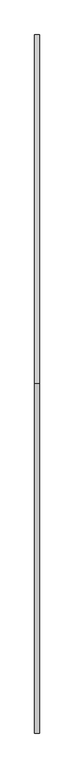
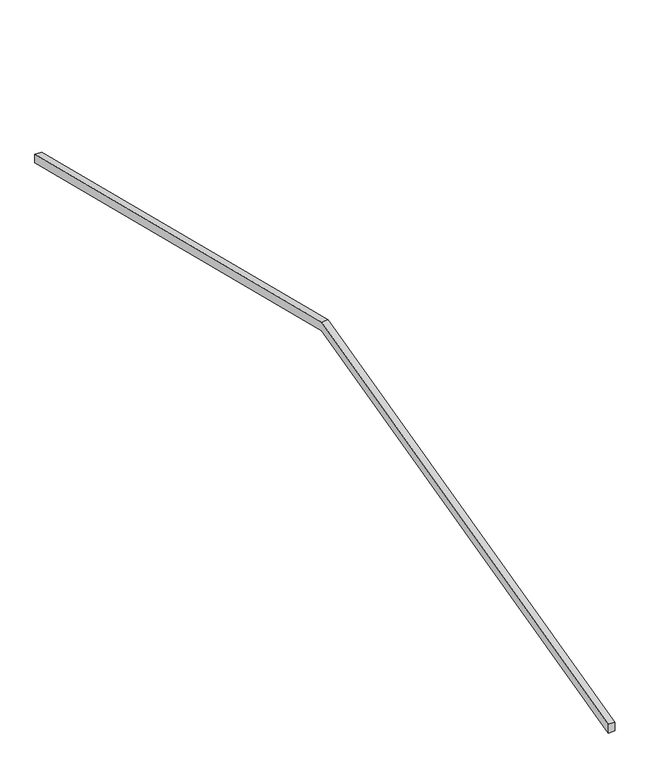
"""IFC4 building model written with IfcOpenShell, lengths in millimetres: proxy geometry."""

from ifc_helpers import new_model, si_unit, frame, origin, place, context, project, spatial, polyline, outline, extrude, source, transform, mapped, element, save


def generic_models_ccca3100(model_context):
    return source(origin(), model_context, "Body", "SweptSolid", [
        extrude(outline(polyline([(1948.6238165, 4392.1026725), (-2551.3761835, 3270.1266597), (-2551.3761835, 3352.5757501), (1948.6238165, 4474.5517629), (6448.6238165, 3352.5757501), (6448.6238165, 3270.1266597), (1948.6238165, 4392.1026725)])), frame((44800.9238822, 0.0, 0.0), z_axis=(1.0, 0.0, 0.0), x_axis=(0.0, 1.0, 0.0)), (0.0, 0.0, 1.0), 60.0),
    ])


if __name__ == "__main__":
    model = new_model("IFC4")
    model_context = context("Model", 3, world=origin())
    ifc_project = project(units=[si_unit("LENGTHUNIT", "METRE", prefix="MILLI")], contexts=[model_context])
    site = spatial("IfcSite", under=ifc_project)
    building = spatial("IfcBuilding", under=site)
    placement = place(None, origin())
    generic_models_shape = generic_models_ccca3100(model_context)
    element("IfcBuildingElementProxy", 1, Name="Generic Models", at=placement, inside=building, context=model_context, shape_type="MappedRepresentation", body=[
        mapped(generic_models_shape, transform((0.0, 0.0, 0.0), x_axis=(1.0, 0.0, 0.0), y_axis=(0.0, 1.0, 0.0), z_axis=(0.0, 0.0, 1.0))),
    ])
    save(model, "model.ifc")
